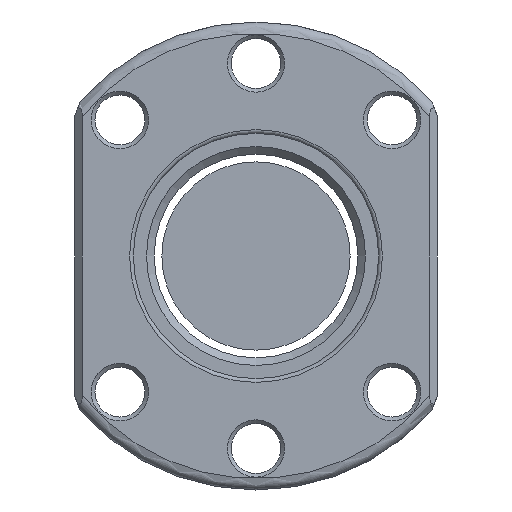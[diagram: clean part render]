
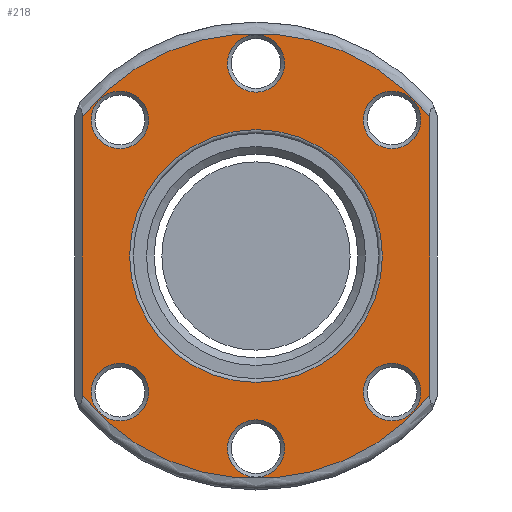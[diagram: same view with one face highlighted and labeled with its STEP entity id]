
A CAD part, front view. The second image highlights one B-rep face of the part: STEP entity #218.
In plain terms, the highlighted planar face has unit normal (0, -1, 0).
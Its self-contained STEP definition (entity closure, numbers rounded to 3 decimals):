
#39=LINE('',#1516,#63);
#40=LINE('',#1520,#64);
#63=VECTOR('',#1245,1.);
#64=VECTOR('',#1248,1.);
#163=PLANE('',#1055);
#218=ADVANCED_FACE('',(#325,#326,#327,#328,#329,#330,#331,#332),#163,.F.);
#325=FACE_BOUND('',#441,.T.);
#326=FACE_BOUND('',#442,.T.);
#327=FACE_BOUND('',#443,.T.);
#328=FACE_BOUND('',#444,.T.);
#329=FACE_BOUND('',#445,.T.);
#330=FACE_BOUND('',#446,.T.);
#331=FACE_BOUND('',#447,.T.);
#332=FACE_BOUND('',#448,.T.);
#441=EDGE_LOOP('',(#573));
#442=EDGE_LOOP('',(#574));
#443=EDGE_LOOP('',(#575));
#444=EDGE_LOOP('',(#576));
#445=EDGE_LOOP('',(#577));
#446=EDGE_LOOP('',(#578));
#447=EDGE_LOOP('',(#579));
#448=EDGE_LOOP('',(#580,#581,#582,#583));
#573=ORIENTED_EDGE('',*,*,#852,.T.);
#574=ORIENTED_EDGE('',*,*,#853,.T.);
#575=ORIENTED_EDGE('',*,*,#854,.T.);
#576=ORIENTED_EDGE('',*,*,#855,.T.);
#577=ORIENTED_EDGE('',*,*,#856,.T.);
#578=ORIENTED_EDGE('',*,*,#857,.T.);
#579=ORIENTED_EDGE('',*,*,#858,.T.);
#580=ORIENTED_EDGE('',*,*,#859,.T.);
#581=ORIENTED_EDGE('',*,*,#860,.T.);
#582=ORIENTED_EDGE('',*,*,#861,.T.);
#583=ORIENTED_EDGE('',*,*,#862,.T.);
#763=VERTEX_POINT('',#1500);
#764=VERTEX_POINT('',#1502);
#765=VERTEX_POINT('',#1504);
#766=VERTEX_POINT('',#1506);
#767=VERTEX_POINT('',#1508);
#768=VERTEX_POINT('',#1510);
#769=VERTEX_POINT('',#1512);
#770=VERTEX_POINT('',#1514);
#771=VERTEX_POINT('',#1515);
#772=VERTEX_POINT('',#1517);
#773=VERTEX_POINT('',#1519);
#852=EDGE_CURVE('',#763,#763,#957,.T.);
#853=EDGE_CURVE('',#764,#764,#958,.T.);
#854=EDGE_CURVE('',#765,#765,#959,.T.);
#855=EDGE_CURVE('',#766,#766,#960,.T.);
#856=EDGE_CURVE('',#767,#767,#961,.T.);
#857=EDGE_CURVE('',#768,#768,#962,.T.);
#858=EDGE_CURVE('',#769,#769,#963,.T.);
#859=EDGE_CURVE('',#770,#771,#964,.T.);
#860=EDGE_CURVE('',#771,#772,#39,.T.);
#861=EDGE_CURVE('',#772,#773,#965,.T.);
#862=EDGE_CURVE('',#773,#770,#40,.T.);
#957=CIRCLE('',#1046,16.75);
#958=CIRCLE('',#1047,3.8);
#959=CIRCLE('',#1048,3.8);
#960=CIRCLE('',#1049,3.8);
#961=CIRCLE('',#1050,3.8);
#962=CIRCLE('',#1051,3.8);
#963=CIRCLE('',#1052,3.8);
#964=CIRCLE('',#1053,29.5);
#965=CIRCLE('',#1054,29.5);
#1046=AXIS2_PLACEMENT_3D('',#1499,#1229,#1230);
#1047=AXIS2_PLACEMENT_3D('',#1501,#1231,#1232);
#1048=AXIS2_PLACEMENT_3D('',#1503,#1233,#1234);
#1049=AXIS2_PLACEMENT_3D('',#1505,#1235,#1236);
#1050=AXIS2_PLACEMENT_3D('',#1507,#1237,#1238);
#1051=AXIS2_PLACEMENT_3D('',#1509,#1239,#1240);
#1052=AXIS2_PLACEMENT_3D('',#1511,#1241,#1242);
#1053=AXIS2_PLACEMENT_3D('',#1513,#1243,#1244);
#1054=AXIS2_PLACEMENT_3D('',#1518,#1246,#1247);
#1055=AXIS2_PLACEMENT_3D('',#1521,#1249,#1250);
#1229=DIRECTION('',(0.,1.,0.));
#1230=DIRECTION('',(0.,0.,1.));
#1231=DIRECTION('',(0.,1.,0.));
#1232=DIRECTION('',(0.,0.,1.));
#1233=DIRECTION('',(0.,1.,0.));
#1234=DIRECTION('',(0.,0.,1.));
#1235=DIRECTION('',(0.,1.,0.));
#1236=DIRECTION('',(0.,0.,1.));
#1237=DIRECTION('',(0.,1.,0.));
#1238=DIRECTION('',(0.,0.,1.));
#1239=DIRECTION('',(0.,1.,0.));
#1240=DIRECTION('',(0.,0.,1.));
#1241=DIRECTION('',(0.,1.,0.));
#1242=DIRECTION('',(0.,0.,1.));
#1243=DIRECTION('',(0.,-1.,0.));
#1244=DIRECTION('',(0.,0.,1.));
#1245=DIRECTION('',(0.,0.,-1.));
#1246=DIRECTION('',(0.,-1.,0.));
#1247=DIRECTION('',(0.,0.,1.));
#1248=DIRECTION('',(0.,0.,1.));
#1249=DIRECTION('',(0.,1.,0.));
#1250=DIRECTION('',(0.,0.,1.));
#1499=CARTESIAN_POINT('',(0.,0.,0.));
#1500=CARTESIAN_POINT('',(0.,0.,16.75));
#1501=CARTESIAN_POINT('',(-18.031,0.,-18.031));
#1502=CARTESIAN_POINT('',(-18.031,0.,-14.231));
#1503=CARTESIAN_POINT('',(18.031,0.,-18.031));
#1504=CARTESIAN_POINT('',(18.031,0.,-14.231));
#1505=CARTESIAN_POINT('',(-18.031,0.,18.031));
#1506=CARTESIAN_POINT('',(-18.031,0.,21.831));
#1507=CARTESIAN_POINT('',(0.,0.,25.5));
#1508=CARTESIAN_POINT('',(0.,0.,29.3));
#1509=CARTESIAN_POINT('',(0.,0.,-25.5));
#1510=CARTESIAN_POINT('',(0.,0.,-21.7));
#1511=CARTESIAN_POINT('',(18.031,0.,18.031));
#1512=CARTESIAN_POINT('',(18.031,0.,21.831));
#1513=CARTESIAN_POINT('',(0.,0.,0.));
#1514=CARTESIAN_POINT('',(23.,0.,18.473));
#1515=CARTESIAN_POINT('',(-23.,0.,18.473));
#1516=CARTESIAN_POINT('',(-23.,0.,-17.154));
#1517=CARTESIAN_POINT('',(-23.,0.,-18.473));
#1518=CARTESIAN_POINT('',(0.,0.,0.));
#1519=CARTESIAN_POINT('',(23.,0.,-18.473));
#1520=CARTESIAN_POINT('',(23.,0.,17.154));
#1521=CARTESIAN_POINT('',(0.,0.,0.));
